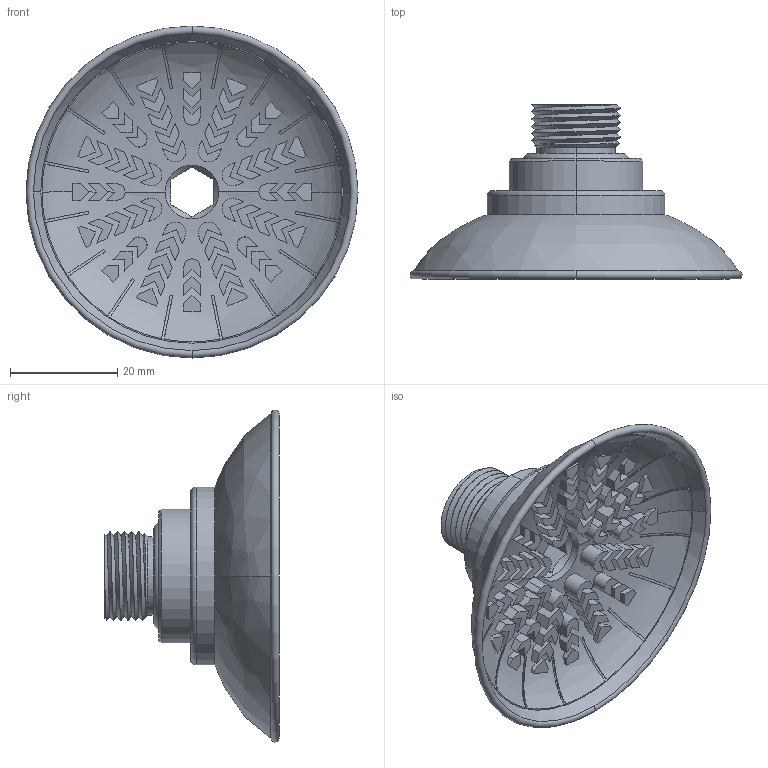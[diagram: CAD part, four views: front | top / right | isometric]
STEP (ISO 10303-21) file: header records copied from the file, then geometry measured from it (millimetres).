
FILE_DESCRIPTION (( 'STEP AP203' ), '1' );
FILE_NAME ('99A_60PU_M38.STEP', '2018-05-28T09:53:25', ( '' ), ( '' ), 'SwSTEP 2.0', 'SolidWorks 2016', '' );
FILE_SCHEMA (( 'CONFIG_CONTROL_DESIGN' ));
Length unit declared in the file: millimetre
Products named in the file (1): 99A_60PU_M38
Bounding box: 62 x 32.5 x 62 mm (x, y, z)
Volume: 16106 mm3; surface area: 13722 mm2
Topology: 3 solids, 3 shells, 570 faces, 1480 edges, 977 vertices
Faces by surface type: plane 479, cylinder 48, bspline 22, cone 13, torus 8
Entity records: 20565 total; most frequent: CARTESIAN_POINT 7535, ORIENTED_EDGE 2960, DIRECTION 2162, EDGE_CURVE 1480, VERTEX_POINT 977, LINE 850, VECTOR 850, AXIS2_PLACEMENT_3D 656
